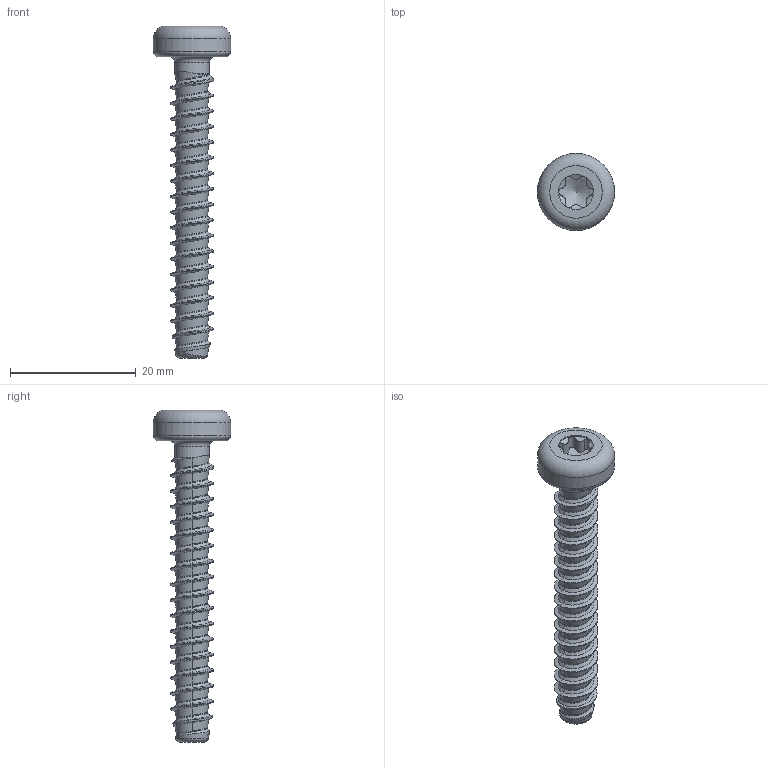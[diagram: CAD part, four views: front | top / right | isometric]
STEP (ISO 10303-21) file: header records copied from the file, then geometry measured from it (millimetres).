
FILE_DESCRIPTION(/* description */ (''),/* implementation_level */ '2;1');
FILE_NAME(/* name */ 'KN6039-STSplus-70x48-T30.step',/* time_stamp */ '2017-10-11T16:12:21+02:00',/* author */ (''),/* organization */ (''),/* preprocessor_version */ 'ST-DEVELOPER v16',/* originating_system */ 'SIEMENS PLM Software NX 10.0',/* authorisation */ '');
FILE_SCHEMA (('AUTOMOTIVE_DESIGN { 1 0 10303 214 3 1 1 1 }'));
Length unit declared in the file: millimetre
Products named in the file (1): KN6039-STSplus-70x48-T30
Bounding box: 12.3 x 12.3 x 52.9 mm (x, y, z)
Volume: 1622 mm3; surface area: 1645.2 mm2
Topology: 1 solids, 1 shells, 126 faces, 288 edges, 165 vertices
Faces by surface type: bspline 94, cylinder 16, cone 9, torus 4, plane 3
Full cylindrical faces by diameter (mm): 5.48 x1, 5.6 x1, 12.3 x1
Entity records: 9605 total; most frequent: CARTESIAN_POINT 7432, ORIENTED_EDGE 552, EDGE_CURVE 276, DIRECTION 203, VERTEX_POINT 162, B_SPLINE_CURVE_WITH_KNOTS 157, EDGE_LOOP 135, ADVANCED_FACE 126
